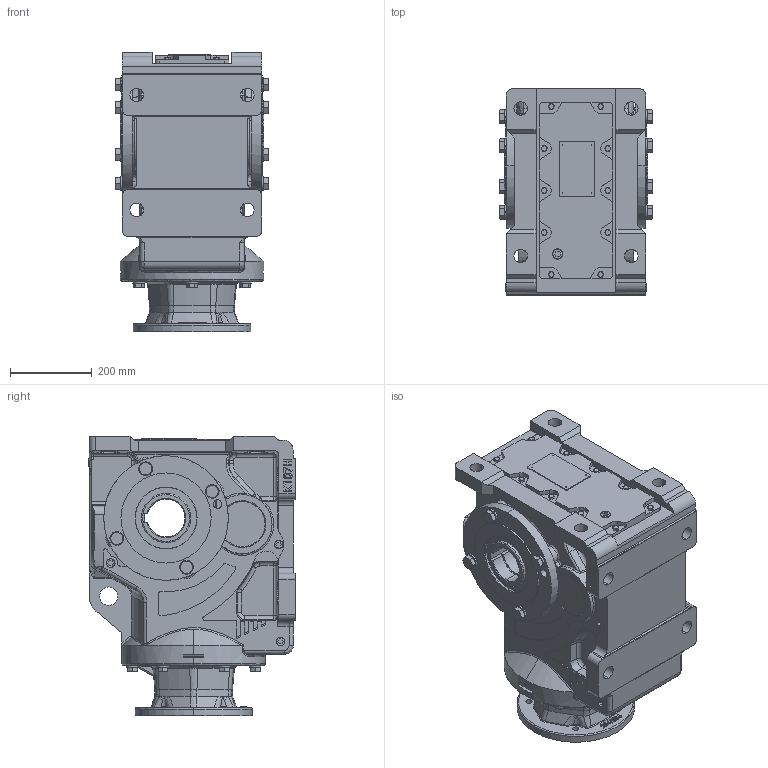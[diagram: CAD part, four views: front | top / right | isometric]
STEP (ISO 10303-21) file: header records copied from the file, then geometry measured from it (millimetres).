
FILE_DESCRIPTION (( 'STEP AP203' ), '1' );
FILE_NAME ('KHN107-284T.STEP', '2023-02-15T07:14:17', ( '' ), ( '' ), 'SwSTEP 2.0', 'SolidWorks 2012', '' );
FILE_SCHEMA (( 'CONFIG_CONTROL_DESIGN' ));
Length unit declared in the file: millimetre
Products named in the file (1): KHN107-284T
Bounding box: 373.2 x 503.5 x 683 mm (x, y, z)
Volume: 70757943.2 mm3; surface area: 1945503.7 mm2
Topology: 1 solids, 52 shells, 2245 faces, 5576 edges, 3491 vertices
Faces by surface type: plane 948, cylinder 619, bspline 373, cone 305
Entity records: 88887 total; most frequent: CARTESIAN_POINT 37835, ORIENTED_EDGE 11024, DIRECTION 9999, EDGE_CURVE 5512, AXIS2_PLACEMENT_3D 3672, VERTEX_POINT 3491, VECTOR 2655, LINE 2655
